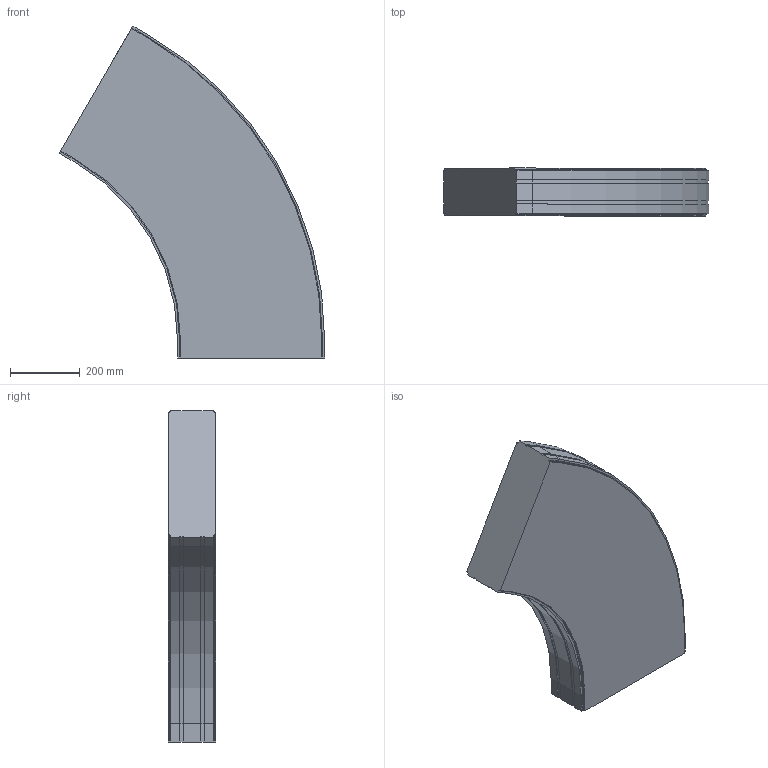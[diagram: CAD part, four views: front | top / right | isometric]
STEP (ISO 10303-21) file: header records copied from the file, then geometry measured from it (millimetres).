
FILE_DESCRIPTION (( 'STEP AP214' ), '1' );
FILE_NAME ('FS-MTC2-150-INOX horizontaalbocht.420 60°.STEP', '2017-02-08T12:40:34', ( '' ), ( '' ), 'SwSTEP 2.0', 'SolidWorks 2016', '' );
FILE_SCHEMA (( 'AUTOMOTIVE_DESIGN' ));
Length unit declared in the file: millimetre
Products named in the file (1): FS-MTC2-150-INOX horizontaalbocht.420 60°
Bounding box: 762.72 x 136.5 x 954.73 mm (x, y, z)
Volume: 54142311.5 mm3; surface area: 1188660.8 mm2
Topology: 1 solids, 1 shells, 74 faces, 216 edges, 144 vertices
Faces by surface type: plane 56, cylinder 18
Entity records: 2470 total; most frequent: CARTESIAN_POINT 435, ORIENTED_EDGE 432, DIRECTION 402, EDGE_CURVE 216, LINE 180, VECTOR 180, VERTEX_POINT 144, AXIS2_PLACEMENT_3D 111
